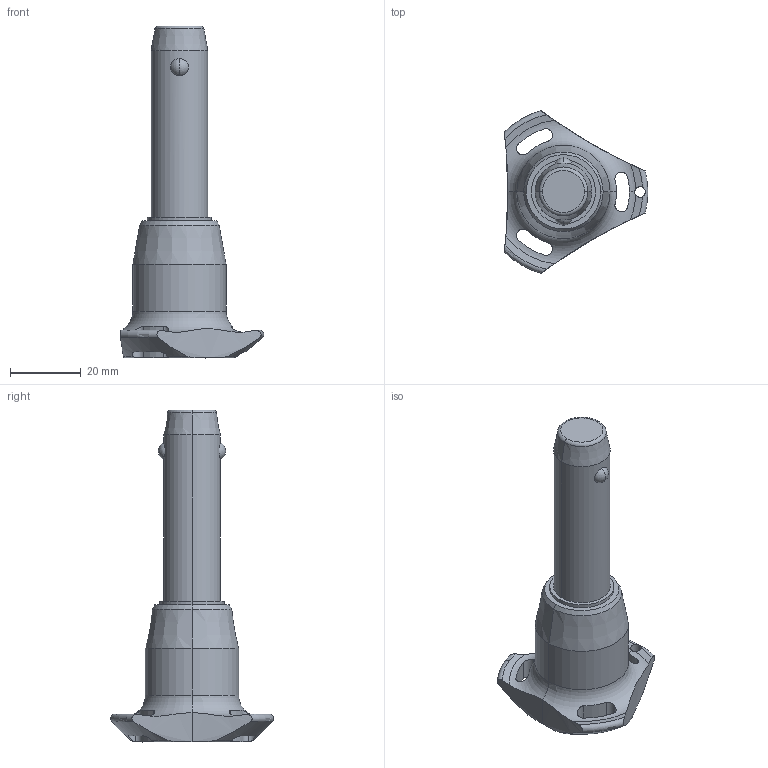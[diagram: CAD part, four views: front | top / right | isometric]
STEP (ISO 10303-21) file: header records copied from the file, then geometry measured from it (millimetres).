
FILE_DESCRIPTION (( 'STEP AP203' ), '1' );
FILE_NAME ('QR1734.M16-040-S.step', '2025-11-12T14:34:54', ( '' ), ( '' ), 'SwSTEP 2.0', 'SolidWorks 2019', '' );
FILE_SCHEMA (( 'CONFIG_CONTROL_DESIGN' ));
Length unit declared in the file: millimetre
Products named in the file (1): QR1734.M16-040-S
Bounding box: 40.5 x 45.88 x 93.7 mm (x, y, z)
Volume: 33139.1 mm3; surface area: 8669.1 mm2
Topology: 1 solids, 1 shells, 65 faces, 178 edges, 113 vertices
Faces by surface type: cylinder 30, cone 14, torus 11, sphere 6, plane 4
Entity records: 2870 total; most frequent: CARTESIAN_POINT 1181, ORIENTED_EDGE 356, DIRECTION 329, EDGE_CURVE 178, AXIS2_PLACEMENT_3D 147, VERTEX_POINT 113, CIRCLE 81, EDGE_LOOP 71
